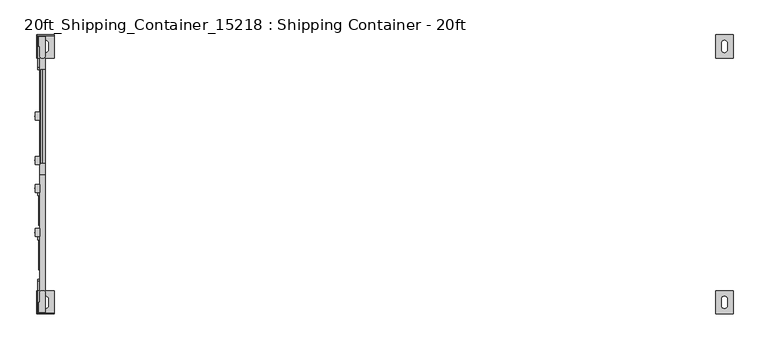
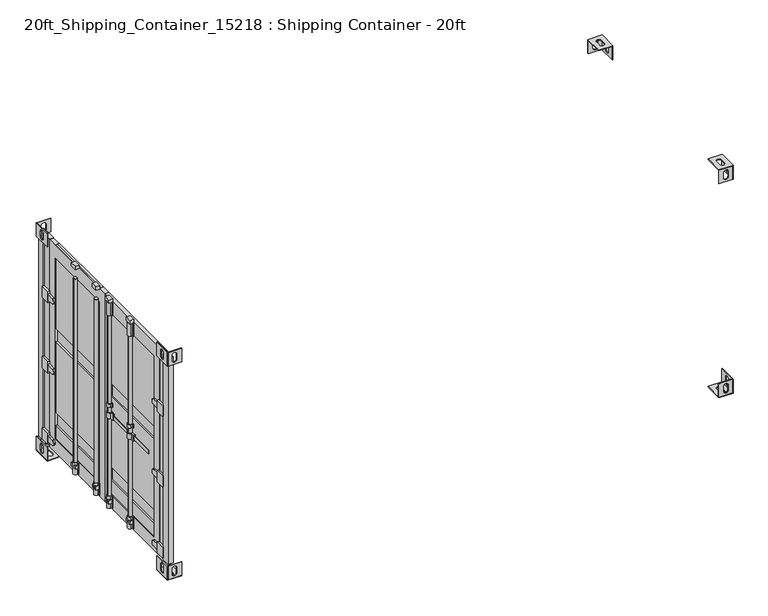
"""IFC4 building model written with IfcOpenShell, lengths in millimetres: proxy geometry, 20ft_Shipping_Container_15218 : Shipping Container - 20ft."""

from ifc_helpers import new_model, si_unit, point, frame, frame_2d, origin, origin_with_axes, place, context, project, spatial, polyline, circle_curve, trimmed, segment, composite_curve, outline, extrude, faceted_brep, source, transform, mapped, element, save


def proxy_20ft_shipping_container_15218_shipping_container_20ft_b15c6e50(model_context):
    return source(origin(), model_context, "Body", "SolidModel", [
        extrude(outline(composite_curve([segment(polyline([(-6089.0024525, 492.5124538), (-6073.775, 492.5124538), (-6073.775, 476.6374538), (-6080.125, 476.6374538), (-6080.125, 486.1624538), (-6088.4054375, 486.1624538)]), True, "CONTINUOUS"), segment(trimmed(circle_curve(frame_2d((-6092.825, 511.175)), 25.4), [point((-6088.4054375, 486.1624538))], [point((-6092.9674273, 536.5746007))], False, "CARTESIAN"), True, "CONTINUOUS"), segment(polyline([(-6092.9674273, 536.5746007), (-6080.125, 536.5746007), (-6080.125, 546.1), (-6073.775, 546.1), (-6073.775, 530.2246007), (-6092.9483455, 530.2246007)]), True, "CONTINUOUS"), segment(trimmed(circle_curve(frame_2d((-6092.825, 511.175)), 19.05), [point((-6092.9483455, 530.2246007))], [point((-6089.0024525, 492.5124538))], True, "CARTESIAN"), True, "CONTINUOUS")], self_intersect=False)), frame((0.0, 0.0, 168.2203507), z_axis=(0.0, 0.0, 1.0), x_axis=(1.0, 0.0, 0.0)), (0.0, 0.0, 1.0), 136.3706163),
        extrude(outline(composite_curve([segment(polyline([(-6089.0024525, 103.9271016), (-6073.775, 103.9271016), (-6073.775, 88.0521016), (-6080.125, 88.0521016), (-6080.125, 97.5771016), (-6088.4054375, 97.5771016)]), True, "CONTINUOUS"), segment(trimmed(circle_curve(frame_2d((-6092.825, 122.5896478)), 25.4), [point((-6088.4054375, 97.5771016))], [point((-6092.9674273, 147.9892485))], False, "CARTESIAN"), True, "CONTINUOUS"), segment(polyline([(-6092.9674273, 147.9892485), (-6080.125, 147.9892485), (-6080.125, 157.5146478), (-6073.775, 157.5146478), (-6073.775, 141.6392485), (-6092.9483455, 141.6392485)]), True, "CONTINUOUS"), segment(trimmed(circle_curve(frame_2d((-6092.825, 122.5896478)), 19.05), [point((-6092.9483455, 141.6392485))], [point((-6089.0024525, 103.9271016))], True, "CARTESIAN"), True, "CONTINUOUS")], self_intersect=False)), frame((0.0, 0.0, 168.2203507), z_axis=(0.0, 0.0, 1.0), x_axis=(1.0, 0.0, 0.0)), (0.0, 0.0, 1.0), 136.3706163),
        extrude(outline(polyline([(-6116.6067069, 546.1), (-6073.775, 546.1), (-6073.775, 476.6374538), (-6116.6067069, 476.6374538), (-6116.6067069, 546.1)])), frame((0.0, 0.0, 240.0937477), z_axis=(0.0, 0.0, 1.0), x_axis=(1.0, 0.0, 0.0)), (0.0, 0.0, 1.0), 38.0453507),
        extrude(outline(polyline([(-6116.6067069, 141.6392485), (-6073.775, 141.6392485), (-6073.775, 88.0521016), (-6116.6067069, 88.0521016), (-6116.6067069, 141.6392485)])), frame((0.0, 0.0, 240.0937477), z_axis=(0.0, 0.0, 1.0), x_axis=(1.0, 0.0, 0.0)), (0.0, 0.0, 1.0), 38.0453507),
        extrude(outline(polyline([(-6116.6067069, 546.1), (-6073.775, 546.1), (-6073.775, 476.6374538), (-6116.6067069, 476.6374538), (-6116.6067069, 546.1)])), frame((0.0, 0.0, 2520.95), z_axis=(0.0, 0.0, 1.0), x_axis=(1.0, 0.0, 0.0)), (0.0, 0.0, 1.0), 38.0453507),
        extrude(outline(polyline([(-6116.6067069, 157.5146478), (-6073.775, 157.5146478), (-6073.775, 88.0521016), (-6116.6067069, 88.0521016), (-6116.6067069, 157.5146478)])), frame((0.0, 0.0, 2520.95), z_axis=(0.0, 0.0, 1.0), x_axis=(1.0, 0.0, 0.0)), (0.0, 0.0, 1.0), 38.0453507),
        extrude(outline(composite_curve([segment(trimmed(circle_curve(frame_2d((-6092.825, 122.5896478)), 19.05), [point((-6111.875, 122.5896478))], [point((-6073.775, 122.5896478))], False, "CARTESIAN"), True, "CONTINUOUS"), segment(trimmed(circle_curve(frame_2d((-6092.825, 122.5896478)), 19.05), [point((-6073.775, 122.5896478))], [point((-6111.875, 122.5896478))], False, "CARTESIAN"), True, "CONTINUOUS")], self_intersect=False)), frame((0.0, 0.0, 168.2203507), z_axis=(0.0, 0.0, 1.0), x_axis=(1.0, 0.0, 0.0)), (0.0, 0.0, 1.0), 2230.0657095),
        extrude(outline(composite_curve([segment(trimmed(circle_curve(frame_2d((-6092.825, 511.175)), 19.05), [point((-6111.875, 511.175))], [point((-6073.775, 511.175))], False, "CARTESIAN"), True, "CONTINUOUS"), segment(trimmed(circle_curve(frame_2d((-6092.825, 511.175)), 19.05), [point((-6073.775, 511.175))], [point((-6111.875, 511.175))], False, "CARTESIAN"), True, "CONTINUOUS")], self_intersect=False)), frame((0.0, 0.0, 168.2203507), z_axis=(0.0, 0.0, 1.0), x_axis=(1.0, 0.0, 0.0)), (0.0, 0.0, 1.0), 2230.0657095),
        extrude(outline(composite_curve([segment(trimmed(circle_curve(frame_2d((946.15, 1873.5677765)), 25.4), [point((920.75, 1873.5677765))], [point((941.7393363, 1898.5818935))], False, "CARTESIAN"), True, "CONTINUOUS"), segment(polyline([(941.7393363, 1898.5818935), (1024.8377677, 1905.8520642), (1024.8377677, 1869.4809072), (1024.8377677, 1833.1097502), (941.7393363, 1840.3799209)]), True, "CONTINUOUS"), segment(trimmed(circle_curve(frame_2d((946.15, 1865.3940378)), 25.4), [point((941.7393363, 1840.3799209))], [point((920.75, 1865.3940378))], False, "CARTESIAN"), True, "CONTINUOUS"), segment(polyline([(920.75, 1865.3940378), (920.75, 1869.4809072), (920.75, 1873.5677765)]), True, "CONTINUOUS")], self_intersect=False)), frame((-6092.825, 0.0, 0.0), z_axis=(1.0, 0.0, 0.0), x_axis=(0.0, 1.0, 0.0)), (0.0, 0.0, 1.0), 19.05),
        extrude(outline(polyline([(-6096.0, 1123.95), (-6073.775, 1123.95), (-6073.775, 1022.35), (-6096.0, 1022.35), (-6096.0, 1123.95)])), frame((0.0, 0.0, 1805.9809072), z_axis=(0.0, 0.0, 1.0), x_axis=(1.0, 0.0, 0.0)), (0.0, 0.0, 1.0), 127.0),
        extrude(outline(composite_curve([segment(trimmed(circle_curve(frame_2d((946.15, 1070.6778363)), 25.4), [point((920.75, 1070.6778363))], [point((941.7393363, 1095.6919533))], False, "CARTESIAN"), True, "CONTINUOUS"), segment(polyline([(941.7393363, 1095.6919533), (1024.8377677, 1102.962124), (1024.8377677, 1066.590967), (1024.8377677, 1030.21981), (941.7393363, 1037.4899807)]), True, "CONTINUOUS"), segment(trimmed(circle_curve(frame_2d((946.15, 1062.5040976)), 25.4), [point((941.7393363, 1037.4899807))], [point((920.75, 1062.5040976))], False, "CARTESIAN"), True, "CONTINUOUS"), segment(polyline([(920.75, 1062.5040976), (920.75, 1066.590967), (920.75, 1070.6778363)]), True, "CONTINUOUS")], self_intersect=False)), frame((-6092.825, 0.0, 0.0), z_axis=(1.0, 0.0, 0.0), x_axis=(0.0, 1.0, 0.0)), (0.0, 0.0, 1.0), 19.05),
        extrude(outline(polyline([(-6096.0, 1123.95), (-6073.775, 1123.95), (-6073.775, 1022.35), (-6096.0, 1022.35), (-6096.0, 1123.95)])), frame((0.0, 0.0, 1003.090967), z_axis=(0.0, 0.0, 1.0), x_axis=(1.0, 0.0, 0.0)), (0.0, 0.0, 1.0), 127.0),
        extrude(outline(composite_curve([segment(trimmed(circle_curve(frame_2d((946.15, 257.8778363)), 25.4), [point((920.75, 257.8778363))], [point((941.7393363, 282.8919533))], False, "CARTESIAN"), True, "CONTINUOUS"), segment(polyline([(941.7393363, 282.8919533), (1024.8377677, 290.162124), (1024.8377677, 253.790967), (1024.8377677, 217.41981), (941.7393363, 224.6899807)]), True, "CONTINUOUS"), segment(trimmed(circle_curve(frame_2d((946.15, 249.7040976)), 25.4), [point((941.7393363, 224.6899807))], [point((920.75, 249.7040976))], False, "CARTESIAN"), True, "CONTINUOUS"), segment(polyline([(920.75, 249.7040976), (920.75, 253.790967), (920.75, 257.8778363)]), True, "CONTINUOUS")], self_intersect=False)), frame((-6092.825, 0.0, 0.0), z_axis=(1.0, 0.0, 0.0), x_axis=(0.0, 1.0, 0.0)), (0.0, 0.0, 1.0), 19.05),
        extrude(outline(polyline([(-6096.0, 1123.95), (-6073.775, 1123.95), (-6073.775, 1022.35), (-6096.0, 1022.35), (-6096.0, 1123.95)])), frame((0.0, 0.0, 190.290967), z_axis=(0.0, 0.0, 1.0), x_axis=(1.0, 0.0, 0.0)), (0.0, 0.0, 1.0), 127.0),
        extrude(outline(composite_curve([segment(trimmed(circle_curve(frame_2d((-6042.025, 1035.05)), 12.7), [point((-6029.325, 1035.05))], [point((-6042.025, 1022.35))], False, "CARTESIAN"), True, "CONTINUOUS"), segment(polyline([(-6042.025, 1022.35), (-6061.075, 1022.35)]), True, "CONTINUOUS"), segment(trimmed(circle_curve(frame_2d((-6061.075, 1035.05)), 12.7), [point((-6061.075, 1022.35))], [point((-6073.775, 1035.05))], False, "CARTESIAN"), True, "CONTINUOUS"), segment(polyline([(-6073.775, 1035.05), (-6073.775, 1123.95), (-6086.475, 1123.95), (-6086.475, 1209.675), (-6029.325, 1209.675), (-6029.325, 1035.05)]), True, "CONTINUOUS")], self_intersect=False)), frame((0.0, 0.0, 168.2203507), z_axis=(0.0, 0.0, 1.0), x_axis=(1.0, 0.0, 0.0)), (0.0, 0.0, 1.0), 2352.7296493),
        extrude(outline(polyline([(-6029.325, 101.6), (-6048.375, 101.6), (-6048.375, 920.75), (-6029.325, 920.75), (-6029.325, 101.6)])), frame((0.0, 0.0, 456.990967), z_axis=(0.0, 0.0, 1.0), x_axis=(1.0, 0.0, 0.0)), (0.0, 0.0, 1.0), 152.4),
        extrude(outline(polyline([(-6029.325, 101.6), (-6048.375, 101.6), (-6048.375, 920.75), (-6029.325, 920.75), (-6029.325, 101.6)])), frame((0.0, 0.0, 2368.55), z_axis=(0.0, 0.0, 1.0), x_axis=(1.0, 0.0, 0.0)), (0.0, 0.0, 1.0), 152.4),
        extrude(outline(polyline([(-6029.325, 101.6), (-6048.375, 101.6), (-6048.375, 920.75), (-6029.325, 920.75), (-6029.325, 101.6)])), frame((0.0, 0.0, 1412.7704835), z_axis=(0.0, 0.0, 1.0), x_axis=(1.0, 0.0, 0.0)), (0.0, 0.0, 1.0), 152.4),
        extrude(outline(polyline([(-6042.025, 101.6), (-6067.425, 101.6), (-6067.425, 920.75), (-6042.025, 920.75), (-6042.025, 101.6)])), frame((0.0, 0.0, 304.590967), z_axis=(0.0, 0.0, 1.0), x_axis=(1.0, 0.0, 0.0)), (0.0, 0.0, 1.0), 152.4),
        extrude(outline(polyline([(-6042.025, 101.6), (-6067.425, 101.6), (-6067.425, 920.75), (-6042.025, 920.75), (-6042.025, 101.6)])), frame((0.0, 0.0, 2486.9305932), z_axis=(0.0, 0.0, 1.0), x_axis=(1.0, 0.0, 0.0)), (0.0, 0.0, 1.0), 34.0194068),
        extrude(outline(polyline([(-6042.025, 101.6), (-6067.425, 101.6), (-6067.425, 920.75), (-6042.025, 920.75), (-6042.025, 101.6)])), frame((0.0, 0.0, 1565.1704835), z_axis=(0.0, 0.0, 1.0), x_axis=(1.0, 0.0, 0.0)), (0.0, 0.0, 1.0), 803.3795165),
        extrude(outline(polyline([(-6042.025, 101.6), (-6067.425, 101.6), (-6067.425, 920.75), (-6042.025, 920.75), (-6042.025, 101.6)])), frame((0.0, 0.0, 609.390967), z_axis=(0.0, 0.0, 1.0), x_axis=(1.0, 0.0, 0.0)), (0.0, 0.0, 1.0), 803.3795165),
        extrude(outline(polyline([(0.0, 2520.95), (1022.35, 2520.95), (1022.35, 152.190967), (0.0, 152.190967), (0.0, 2520.95)]), holes=[polyline([(920.75, 2368.55), (101.6, 2368.55), (101.6, 304.590967), (920.75, 304.590967), (920.75, 2368.55)])]), frame((-6073.775, 0.0, 0.0), z_axis=(1.0, 0.0, 0.0), x_axis=(0.0, 1.0, 0.0)), (0.0, 0.0, 1.0), 44.45),
        extrude(outline(polyline([(-6080.125, -147.9892485), (-6080.125, -449.0870422), (-6086.6174273, -449.0870422), (-6086.6174273, -147.9892485), (-6080.125, -147.9892485)])), frame((0.0, 0.0, 1206.5), z_axis=(0.0, 0.0, 1.0), x_axis=(1.0, 0.0, 0.0)), (0.0, 0.0, 1.0), 38.1),
        extrude(outline(polyline([(-6080.125, -536.5746007), (-6080.125, -837.6723944), (-6086.6174273, -837.6723944), (-6086.6174273, -536.5746007), (-6080.125, -536.5746007)])), frame((0.0, 0.0, 1206.5), z_axis=(0.0, 0.0, 1.0), x_axis=(1.0, 0.0, 0.0)), (0.0, 0.0, 1.0), 38.1),
        extrude(outline(composite_curve([segment(trimmed(circle_curve(frame_2d((-6092.825, -122.5896478)), 19.05), [point((-6089.0024525, -103.9271016))], [point((-6092.9483455, -141.6392485))], True, "CARTESIAN"), True, "CONTINUOUS"), segment(polyline([(-6092.9483455, -141.6392485), (-6073.775, -141.6392485), (-6073.775, -186.0900472), (-6080.125, -186.0900472), (-6080.125, -147.9892485), (-6086.6174273, -147.9892485), (-6086.6174273, -186.0900472), (-6092.9674273, -186.0900472), (-6092.9674273, -147.9892485)]), True, "CONTINUOUS"), segment(trimmed(circle_curve(frame_2d((-6092.825, -122.5896478)), 25.4), [point((-6092.9674273, -147.9892485))], [point((-6088.4054375, -97.5771016))], False, "CARTESIAN"), True, "CONTINUOUS"), segment(polyline([(-6088.4054375, -97.5771016), (-6073.775, -97.5771016), (-6073.775, -103.9271016), (-6089.0024525, -103.9271016)]), True, "CONTINUOUS")], self_intersect=False)), frame((0.0, 0.0, 1193.8), z_axis=(0.0, 0.0, 1.0), x_axis=(1.0, 0.0, 0.0)), (0.0, 0.0, 1.0), 63.5),
        extrude(outline(composite_curve([segment(trimmed(circle_curve(frame_2d((-6092.825, -511.175)), 19.05), [point((-6089.0024525, -492.5124538))], [point((-6092.9483455, -530.2246007))], True, "CARTESIAN"), True, "CONTINUOUS"), segment(polyline([(-6092.9483455, -530.2246007), (-6073.775, -530.2246007), (-6073.775, -574.6753993), (-6080.125, -574.6753993), (-6080.125, -536.5746007), (-6086.6174273, -536.5746007), (-6086.6174273, -574.6753993), (-6092.9674273, -574.6753993), (-6092.9674273, -536.5746007)]), True, "CONTINUOUS"), segment(trimmed(circle_curve(frame_2d((-6092.825, -511.175)), 25.4), [point((-6092.9674273, -536.5746007))], [point((-6088.4054375, -486.1624538))], False, "CARTESIAN"), True, "CONTINUOUS"), segment(polyline([(-6088.4054375, -486.1624538), (-6073.775, -486.1624538), (-6073.775, -492.5124538), (-6089.0024525, -492.5124538)]), True, "CONTINUOUS")], self_intersect=False)), frame((0.0, 0.0, 1193.8), z_axis=(0.0, 0.0, 1.0), x_axis=(1.0, 0.0, 0.0)), (0.0, 0.0, 1.0), 63.5),
        extrude(outline(composite_curve([segment(trimmed(circle_curve(frame_2d((-6092.825, -511.175)), 19.05), [point((-6089.0024525, -492.5124538))], [point((-6092.9483455, -530.2246007))], True, "CARTESIAN"), True, "CONTINUOUS"), segment(polyline([(-6092.9483455, -530.2246007), (-6073.775, -530.2246007), (-6073.775, -546.1), (-6080.125, -546.1), (-6080.125, -536.5746007), (-6092.9674273, -536.5746007)]), True, "CONTINUOUS"), segment(trimmed(circle_curve(frame_2d((-6092.825, -511.175)), 25.4), [point((-6092.9674273, -536.5746007))], [point((-6088.4054375, -486.1624538))], False, "CARTESIAN"), True, "CONTINUOUS"), segment(polyline([(-6088.4054375, -486.1624538), (-6080.125, -486.1624538), (-6080.125, -476.6374538), (-6073.775, -476.6374538), (-6073.775, -492.5124538), (-6089.0024525, -492.5124538)]), True, "CONTINUOUS")], self_intersect=False)), frame((0.0, 0.0, 1320.8), z_axis=(0.0, 0.0, 1.0), x_axis=(1.0, 0.0, 0.0)), (0.0, 0.0, 1.0), 38.1),
        extrude(outline(composite_curve([segment(trimmed(circle_curve(frame_2d((-6092.825, -122.5896478)), 19.05), [point((-6089.0024525, -103.9271016))], [point((-6092.9483455, -141.6392485))], True, "CARTESIAN"), True, "CONTINUOUS"), segment(polyline([(-6092.9483455, -141.6392485), (-6073.775, -141.6392485), (-6073.775, -157.5146478), (-6080.125, -157.5146478), (-6080.125, -147.9892485), (-6092.9674273, -147.9892485)]), True, "CONTINUOUS"), segment(trimmed(circle_curve(frame_2d((-6092.825, -122.5896478)), 25.4), [point((-6092.9674273, -147.9892485))], [point((-6088.4054375, -97.5771016))], False, "CARTESIAN"), True, "CONTINUOUS"), segment(polyline([(-6088.4054375, -97.5771016), (-6080.125, -97.5771016), (-6080.125, -88.0521016), (-6073.775, -88.0521016), (-6073.775, -103.9271016), (-6089.0024525, -103.9271016)]), True, "CONTINUOUS")], self_intersect=False)), frame((0.0, 0.0, 1320.8), z_axis=(0.0, 0.0, 1.0), x_axis=(1.0, 0.0, 0.0)), (0.0, 0.0, 1.0), 38.1),
        extrude(outline(composite_curve([segment(trimmed(circle_curve(frame_2d((-6092.825, -511.175)), 19.05), [point((-6089.0024525, -492.5124538))], [point((-6092.9483455, -530.2246007))], True, "CARTESIAN"), True, "CONTINUOUS"), segment(polyline([(-6092.9483455, -530.2246007), (-6073.775, -530.2246007), (-6073.775, -546.1), (-6080.125, -546.1), (-6080.125, -536.5746007), (-6092.9674273, -536.5746007)]), True, "CONTINUOUS"), segment(trimmed(circle_curve(frame_2d((-6092.825, -511.175)), 25.4), [point((-6092.9674273, -536.5746007))], [point((-6088.4054375, -486.1624538))], False, "CARTESIAN"), True, "CONTINUOUS"), segment(polyline([(-6088.4054375, -486.1624538), (-6080.125, -486.1624538), (-6080.125, -476.6374538), (-6073.775, -476.6374538), (-6073.775, -492.5124538), (-6089.0024525, -492.5124538)]), True, "CONTINUOUS")], self_intersect=False)), frame((0.0, 0.0, 2368.55), z_axis=(0.0, 0.0, 1.0), x_axis=(1.0, 0.0, 0.0)), (0.0, 0.0, 1.0), 152.4),
        extrude(outline(composite_curve([segment(trimmed(circle_curve(frame_2d((-6092.825, -122.5896478)), 19.05), [point((-6089.0024525, -103.9271016))], [point((-6092.9483455, -141.6392485))], True, "CARTESIAN"), True, "CONTINUOUS"), segment(polyline([(-6092.9483455, -141.6392485), (-6073.775, -141.6392485), (-6073.775, -157.5146478), (-6080.125, -157.5146478), (-6080.125, -147.9892485), (-6092.9674273, -147.9892485)]), True, "CONTINUOUS"), segment(trimmed(circle_curve(frame_2d((-6092.825, -122.5896478)), 25.4), [point((-6092.9674273, -147.9892485))], [point((-6088.4054375, -97.5771016))], False, "CARTESIAN"), True, "CONTINUOUS"), segment(polyline([(-6088.4054375, -97.5771016), (-6080.125, -97.5771016), (-6080.125, -88.0521016), (-6073.775, -88.0521016), (-6073.775, -103.9271016), (-6089.0024525, -103.9271016)]), True, "CONTINUOUS")], self_intersect=False)), frame((0.0, 0.0, 2368.55), z_axis=(0.0, 0.0, 1.0), x_axis=(1.0, 0.0, 0.0)), (0.0, 0.0, 1.0), 152.4),
        extrude(outline(composite_curve([segment(trimmed(circle_curve(frame_2d((-6092.825, -511.175)), 19.05), [point((-6089.0024525, -492.5124538))], [point((-6092.9483455, -530.2246007))], True, "CARTESIAN"), True, "CONTINUOUS"), segment(polyline([(-6092.9483455, -530.2246007), (-6073.775, -530.2246007), (-6073.775, -546.1), (-6080.125, -546.1), (-6080.125, -536.5746007), (-6092.9674273, -536.5746007)]), True, "CONTINUOUS"), segment(trimmed(circle_curve(frame_2d((-6092.825, -511.175)), 25.4), [point((-6092.9674273, -536.5746007))], [point((-6088.4054375, -486.1624538))], False, "CARTESIAN"), True, "CONTINUOUS"), segment(polyline([(-6088.4054375, -486.1624538), (-6080.125, -486.1624538), (-6080.125, -476.6374538), (-6073.775, -476.6374538), (-6073.775, -492.5124538), (-6089.0024525, -492.5124538)]), True, "CONTINUOUS")], self_intersect=False)), frame((0.0, 0.0, 168.2203507), z_axis=(0.0, 0.0, 1.0), x_axis=(1.0, 0.0, 0.0)), (0.0, 0.0, 1.0), 136.3706163),
        extrude(outline(composite_curve([segment(trimmed(circle_curve(frame_2d((-6092.825, -122.5896478)), 19.05), [point((-6089.0024525, -103.9271016))], [point((-6092.9483455, -141.6392485))], True, "CARTESIAN"), True, "CONTINUOUS"), segment(polyline([(-6092.9483455, -141.6392485), (-6073.775, -141.6392485), (-6073.775, -157.5146478), (-6080.125, -157.5146478), (-6080.125, -147.9892485), (-6092.9674273, -147.9892485)]), True, "CONTINUOUS"), segment(trimmed(circle_curve(frame_2d((-6092.825, -122.5896478)), 25.4), [point((-6092.9674273, -147.9892485))], [point((-6088.4054375, -97.5771016))], False, "CARTESIAN"), True, "CONTINUOUS"), segment(polyline([(-6088.4054375, -97.5771016), (-6080.125, -97.5771016), (-6080.125, -88.0521016), (-6073.775, -88.0521016), (-6073.775, -103.9271016), (-6089.0024525, -103.9271016)]), True, "CONTINUOUS")], self_intersect=False)), frame((0.0, 0.0, 168.2203507), z_axis=(0.0, 0.0, 1.0), x_axis=(1.0, 0.0, 0.0)), (0.0, 0.0, 1.0), 136.3706163),
        extrude(outline(polyline([(-6116.6067069, -476.6374538), (-6073.775, -476.6374538), (-6073.775, -546.1), (-6116.6067069, -546.1), (-6116.6067069, -476.6374538)])), frame((0.0, 0.0, 230.0480505), z_axis=(0.0, 0.0, 1.0), x_axis=(1.0, 0.0, 0.0)), (0.0, 0.0, 1.0), 38.0453507),
        extrude(outline(polyline([(-6116.6067069, -88.0521016), (-6073.775, -88.0521016), (-6073.775, -157.5146478), (-6116.6067069, -157.5146478), (-6116.6067069, -88.0521016)])), frame((0.0, 0.0, 230.0480505), z_axis=(0.0, 0.0, 1.0), x_axis=(1.0, 0.0, 0.0)), (0.0, 0.0, 1.0), 38.0453507),
        extrude(outline(polyline([(-6116.6067069, -476.6374538), (-6073.775, -476.6374538), (-6073.775, -546.1), (-6116.6067069, -546.1), (-6116.6067069, -476.6374538)])), frame((0.0, 0.0, 2520.95), z_axis=(0.0, 0.0, 1.0), x_axis=(1.0, 0.0, 0.0)), (0.0, 0.0, 1.0), 38.0453507),
        extrude(outline(polyline([(-6116.6067069, -88.0521016), (-6073.775, -88.0521016), (-6073.775, -157.5146478), (-6116.6067069, -157.5146478), (-6116.6067069, -88.0521016)])), frame((0.0, 0.0, 2520.95), z_axis=(0.0, 0.0, 1.0), x_axis=(1.0, 0.0, 0.0)), (0.0, 0.0, 1.0), 38.0453507),
        extrude(outline(composite_curve([segment(trimmed(circle_curve(frame_2d((-6092.825, -122.5896478)), 19.05), [point((-6111.875, -122.5896478))], [point((-6073.775, -122.5896478))], False, "CARTESIAN"), True, "CONTINUOUS"), segment(trimmed(circle_curve(frame_2d((-6092.825, -122.5896478)), 19.05), [point((-6073.775, -122.5896478))], [point((-6111.875, -122.5896478))], False, "CARTESIAN"), True, "CONTINUOUS")], self_intersect=False)), frame((0.0, 0.0, 168.2203507), z_axis=(0.0, 0.0, 1.0), x_axis=(1.0, 0.0, 0.0)), (0.0, 0.0, 1.0), 2297.300925),
        extrude(outline(composite_curve([segment(trimmed(circle_curve(frame_2d((-6092.825, -511.175)), 19.05), [point((-6111.875, -511.175))], [point((-6073.775, -511.175))], False, "CARTESIAN"), True, "CONTINUOUS"), segment(trimmed(circle_curve(frame_2d((-6092.825, -511.175)), 19.05), [point((-6073.775, -511.175))], [point((-6111.875, -511.175))], False, "CARTESIAN"), True, "CONTINUOUS")], self_intersect=False)), frame((0.0, 0.0, 168.2203507), z_axis=(0.0, 0.0, 1.0), x_axis=(1.0, 0.0, 0.0)), (0.0, 0.0, 1.0), 2297.300925),
        extrude(outline(composite_curve([segment(polyline([(-920.75, 1873.5677765), (-920.75, 1869.4809072), (-920.75, 1865.3940378)]), True, "CONTINUOUS"), segment(trimmed(circle_curve(frame_2d((-946.15, 1865.3940378)), 25.4), [point((-920.75, 1865.3940378))], [point((-941.7393363, 1840.3799209))], False, "CARTESIAN"), True, "CONTINUOUS"), segment(polyline([(-941.7393363, 1840.3799209), (-1024.8377677, 1833.1097502), (-1024.8377677, 1869.4809072), (-1024.8377677, 1905.8520642), (-941.7393363, 1898.5818935)]), True, "CONTINUOUS"), segment(trimmed(circle_curve(frame_2d((-946.15, 1873.5677765)), 25.4), [point((-941.7393363, 1898.5818935))], [point((-920.75, 1873.5677765))], False, "CARTESIAN"), True, "CONTINUOUS")], self_intersect=False)), frame((-6092.825, 0.0, 0.0), z_axis=(1.0, 0.0, 0.0), x_axis=(0.0, 1.0, 0.0)), (0.0, 0.0, 1.0), 19.05),
        extrude(outline(polyline([(-6096.0, -1123.95), (-6096.0, -1022.35), (-6073.775, -1022.35), (-6073.775, -1123.95), (-6096.0, -1123.95)])), frame((0.0, 0.0, 1805.9809072), z_axis=(0.0, 0.0, 1.0), x_axis=(1.0, 0.0, 0.0)), (0.0, 0.0, 1.0), 127.0),
        extrude(outline(composite_curve([segment(polyline([(-920.75, 1070.6778363), (-920.75, 1066.590967), (-920.75, 1062.5040976)]), True, "CONTINUOUS"), segment(trimmed(circle_curve(frame_2d((-946.15, 1062.5040976)), 25.4), [point((-920.75, 1062.5040976))], [point((-941.7393363, 1037.4899807))], False, "CARTESIAN"), True, "CONTINUOUS"), segment(polyline([(-941.7393363, 1037.4899807), (-1024.8377677, 1030.21981), (-1024.8377677, 1066.590967), (-1024.8377677, 1102.962124), (-941.7393363, 1095.6919533)]), True, "CONTINUOUS"), segment(trimmed(circle_curve(frame_2d((-946.15, 1070.6778363)), 25.4), [point((-941.7393363, 1095.6919533))], [point((-920.75, 1070.6778363))], False, "CARTESIAN"), True, "CONTINUOUS")], self_intersect=False)), frame((-6092.825, 0.0, 0.0), z_axis=(1.0, 0.0, 0.0), x_axis=(0.0, 1.0, 0.0)), (0.0, 0.0, 1.0), 19.05),
        extrude(outline(polyline([(-6096.0, -1123.95), (-6096.0, -1022.35), (-6073.775, -1022.35), (-6073.775, -1123.95), (-6096.0, -1123.95)])), frame((0.0, 0.0, 1003.090967), z_axis=(0.0, 0.0, 1.0), x_axis=(1.0, 0.0, 0.0)), (0.0, 0.0, 1.0), 127.0),
        extrude(outline(composite_curve([segment(polyline([(-920.75, 257.8778363), (-920.75, 253.790967), (-920.75, 249.7040976)]), True, "CONTINUOUS"), segment(trimmed(circle_curve(frame_2d((-946.15, 249.7040976)), 25.4), [point((-920.75, 249.7040976))], [point((-941.7393363, 224.6899807))], False, "CARTESIAN"), True, "CONTINUOUS"), segment(polyline([(-941.7393363, 224.6899807), (-1024.8377677, 217.41981), (-1024.8377677, 253.790967), (-1024.8377677, 290.162124), (-941.7393363, 282.8919533)]), True, "CONTINUOUS"), segment(trimmed(circle_curve(frame_2d((-946.15, 257.8778363)), 25.4), [point((-941.7393363, 282.8919533))], [point((-920.75, 257.8778363))], False, "CARTESIAN"), True, "CONTINUOUS")], self_intersect=False)), frame((-6092.825, 0.0, 0.0), z_axis=(1.0, 0.0, 0.0), x_axis=(0.0, 1.0, 0.0)), (0.0, 0.0, 1.0), 19.05),
        extrude(outline(polyline([(-6096.0, -1123.95), (-6096.0, -1022.35), (-6073.775, -1022.35), (-6073.775, -1123.95), (-6096.0, -1123.95)])), frame((0.0, 0.0, 190.290967), z_axis=(0.0, 0.0, 1.0), x_axis=(1.0, 0.0, 0.0)), (0.0, 0.0, 1.0), 127.0),
        extrude(outline(composite_curve([segment(polyline([(-6029.325, -1035.05), (-6029.325, -1209.675), (-6086.475, -1209.675), (-6086.475, -1123.95), (-6073.775, -1123.95), (-6073.775, -1035.05)]), True, "CONTINUOUS"), segment(trimmed(circle_curve(frame_2d((-6061.075, -1035.05)), 12.7), [point((-6073.775, -1035.05))], [point((-6061.075, -1022.35))], False, "CARTESIAN"), True, "CONTINUOUS"), segment(polyline([(-6061.075, -1022.35), (-6042.025, -1022.35)]), True, "CONTINUOUS"), segment(trimmed(circle_curve(frame_2d((-6042.025, -1035.05)), 12.7), [point((-6042.025, -1022.35))], [point((-6029.325, -1035.05))], False, "CARTESIAN"), True, "CONTINUOUS")], self_intersect=False)), frame((0.0, 0.0, 168.2203507), z_axis=(0.0, 0.0, 1.0), x_axis=(1.0, 0.0, 0.0)), (0.0, 0.0, 1.0), 2352.7296493),
        faceted_brep([(-6029.325, 0.0, 2520.95), (-6029.325, -1022.35, 2520.95), (-6029.325, -1022.35, 152.190967), (-6029.325, 0.0, 152.190967), (-6029.325, -101.6, 1412.7704835), (-6029.325, -101.6, 609.390967), (-6029.325, -920.75, 609.390967), (-6029.325, -920.75, 1412.7704835), (-6029.325, -101.6, 456.990967), (-6029.325, -101.6, 304.590967), (-6029.325, -920.75, 304.590967), (-6029.325, -920.75, 456.990967), (-6029.325, -920.75, 1565.1704835), (-6029.325, -920.75, 2368.55), (-6029.325, -101.6, 2368.55), (-6029.325, -101.6, 1565.1704835), (-6048.375, -920.75, 456.990967), (-6048.375, -920.75, 609.390967), (-6048.375, -101.6, 609.390967), (-6048.375, -101.6, 456.990967), (-6048.375, -101.6, 1565.1704835), (-6048.375, -101.6, 1412.7704835), (-6048.375, -920.75, 1412.7704835), (-6048.375, -920.75, 1565.1704835), (-6042.025, -920.75, 456.990967), (-6042.025, -101.6, 456.990967), (-6073.775, 0.0, 2520.95), (-6073.775, -1022.35, 2520.95), (-6042.025, -101.6, 1565.1704835), (-6042.025, -920.75, 1565.1704835), (-6042.025, -920.75, 2368.55), (-6042.025, -101.6, 2368.55), (-6042.025, -920.75, 1412.7704835), (-6042.025, -101.6, 1412.7704835), (-6042.025, -101.6, 609.390967), (-6042.025, -920.75, 609.390967), (-6042.025, -920.75, 304.590967), (-6042.025, -101.6, 304.590967), (-6067.425, -920.75, 1565.1704835), (-6067.425, -920.75, 2368.55), (-6067.425, -101.6, 2368.55), (-6067.425, -101.6, 1565.1704835), (-6067.425, -101.6, 456.990967), (-6067.425, -101.6, 304.590967), (-6067.425, -920.75, 304.590967), (-6067.425, -920.75, 456.990967), (-6067.425, -920.75, 609.390967), (-6067.425, -920.75, 1412.7704835), (-6067.425, -101.6, 1412.7704835), (-6067.425, -101.6, 609.390967), (-6073.775, 0.0, 152.190967), (-6073.775, -1022.35, 152.190967), (-6073.775, -920.75, 2368.55), (-6073.775, -920.75, 304.590967), (-6073.775, -101.6, 304.590967), (-6073.775, -101.6, 2368.55)], [[[0, 1, 2, 3], [4, 5, 6, 7], [8, 9, 10, 11], [12, 13, 14, 15]], [[16, 17, 18, 19]], [[20, 21, 22, 23]], [[11, 24, 25, 8]], [[0, 26, 27, 1]], [[15, 28, 29, 12]], [[13, 30, 31, 14]], [[7, 32, 33, 4]], [[5, 34, 35, 6]], [[24, 36, 37, 25]], [[32, 35, 34, 33]], [[28, 31, 30, 29]], [[38, 39, 40, 41]], [[42, 43, 44, 45]], [[46, 47, 48, 49]], [[45, 16, 19, 42]], [[41, 20, 23, 38]], [[47, 22, 21, 48]], [[49, 18, 17, 46]], [[26, 50, 51, 27], [52, 53, 54, 55]], [[3, 50, 26, 0]], [[2, 51, 50, 3]], [[1, 27, 51, 2]], [[12, 29, 30, 13]], [[6, 35, 32, 7]], [[52, 39, 38, 23, 22, 47, 46, 17, 16, 45, 44, 53]], [[10, 36, 24, 11]], [[53, 44, 43, 54]], [[9, 37, 36, 10]], [[8, 25, 37, 9]], [[14, 31, 28, 15]], [[4, 33, 34, 5]], [[54, 43, 42, 19, 18, 49, 48, 21, 20, 41, 40, 55]], [[55, 40, 39, 52]]]),
        extrude(outline(polyline([(6.35, -146.05), (6.35, 0.0), (158.75, 0.0), (158.75, -146.05), (6.35, -146.05)]), holes=[composite_curve([segment(trimmed(circle_curve(frame_2d((110.063327, -69.85)), 25.4), [point((110.063327, -95.25))], [point((110.063327, -44.45))], True, "CARTESIAN"), True, "CONTINUOUS"), segment(polyline([(110.063327, -44.45), (55.036673, -44.45)]), True, "CONTINUOUS"), segment(trimmed(circle_curve(frame_2d((55.036673, -69.85)), 25.4), [point((55.036673, -44.45))], [point((55.036673, -95.25))], True, "CARTESIAN"), True, "CONTINUOUS"), segment(polyline([(55.036673, -95.25), (110.063327, -95.25)]), True, "CONTINUOUS")], self_intersect=False)]), frame((0.0, -1225.55, 0.0), z_axis=(0.0, 1.0, 0.0), x_axis=(0.0, 0.0, 1.0)), (0.0, 0.0, 1.0), 6.35),
        extrude(outline(polyline([(-1225.55, 6.35), (-1225.55, 158.75), (-1022.35, 158.75), (-1022.35, 6.35), (-1225.55, 6.35)]), holes=[composite_curve([segment(polyline([(-1149.35, 110.063327), (-1149.35, 55.036673)]), True, "CONTINUOUS"), segment(trimmed(circle_curve(frame_2d((-1123.95, 55.036673)), 25.4), [point((-1149.35, 55.036673))], [point((-1098.55, 55.036673))], True, "CARTESIAN"), True, "CONTINUOUS"), segment(polyline([(-1098.55, 55.036673), (-1098.55, 110.063327)]), True, "CONTINUOUS"), segment(trimmed(circle_curve(frame_2d((-1123.95, 110.063327)), 25.4), [point((-1098.55, 110.063327))], [point((-1149.35, 110.063327))], True, "CARTESIAN"), True, "CONTINUOUS")], self_intersect=False)]), frame((0.0, 0.0, 0.0), z_axis=(1.0, 0.0, 0.0), x_axis=(0.0, 1.0, 0.0)), (0.0, 0.0, 1.0), 6.35),
        extrude(outline(polyline([(6.35, -1225.55), (-146.05, -1225.55), (-146.05, -1022.35), (6.35, -1022.35), (6.35, -1225.55)]), holes=[composite_curve([segment(polyline([(-44.45, -1151.463327), (-44.45, -1096.436673)]), True, "CONTINUOUS"), segment(trimmed(circle_curve(frame_2d((-69.85, -1096.436673)), 25.4), [point((-44.45, -1096.436673))], [point((-95.25, -1096.436673))], True, "CARTESIAN"), True, "CONTINUOUS"), segment(polyline([(-95.25, -1096.436673), (-95.25, -1151.463327)]), True, "CONTINUOUS"), segment(trimmed(circle_curve(frame_2d((-69.85, -1151.463327)), 25.4), [point((-95.25, -1151.463327))], [point((-44.45, -1151.463327))], True, "CARTESIAN"), True, "CONTINUOUS")], self_intersect=False)]), origin_with_axes(), (0.0, 0.0, 1.0), 6.35),
        extrude(outline(polyline([(6.35, -5949.95), (158.75, -5949.95), (158.75, -6096.0), (6.35, -6096.0), (6.35, -5949.95)]), holes=[composite_curve([segment(polyline([(110.063327, -6000.75), (55.036673, -6000.75)]), True, "CONTINUOUS"), segment(trimmed(circle_curve(frame_2d((55.036673, -6026.15)), 25.4), [point((55.036673, -6000.75))], [point((55.036673, -6051.55))], True, "CARTESIAN"), True, "CONTINUOUS"), segment(polyline([(55.036673, -6051.55), (110.063327, -6051.55)]), True, "CONTINUOUS"), segment(trimmed(circle_curve(frame_2d((110.063327, -6026.15)), 25.4), [point((110.063327, -6051.55))], [point((110.063327, -6000.75))], True, "CARTESIAN"), True, "CONTINUOUS")], self_intersect=False)]), frame((0.0, -1225.55, 0.0), z_axis=(0.0, 1.0, 0.0), x_axis=(0.0, 0.0, 1.0)), (0.0, 0.0, 1.0), 6.35),
        extrude(outline(polyline([(-1225.55, 6.35), (-1225.55, 158.75), (-1022.35, 158.75), (-1022.35, 6.35), (-1225.55, 6.35)]), holes=[composite_curve([segment(polyline([(-1149.35, 110.063327), (-1149.35, 55.036673)]), True, "CONTINUOUS"), segment(trimmed(circle_curve(frame_2d((-1123.95, 55.036673)), 25.4), [point((-1149.35, 55.036673))], [point((-1098.55, 55.036673))], True, "CARTESIAN"), True, "CONTINUOUS"), segment(polyline([(-1098.55, 55.036673), (-1098.55, 110.063327)]), True, "CONTINUOUS"), segment(trimmed(circle_curve(frame_2d((-1123.95, 110.063327)), 25.4), [point((-1098.55, 110.063327))], [point((-1149.35, 110.063327))], True, "CARTESIAN"), True, "CONTINUOUS")], self_intersect=False)]), frame((-6102.35, 0.0, 0.0), z_axis=(1.0, 0.0, 0.0), x_axis=(0.0, 1.0, 0.0)), (0.0, 0.0, 1.0), 6.35),
        extrude(outline(polyline([(-6102.35, -1225.55), (-6102.35, -1022.35), (-5949.95, -1022.35), (-5949.95, -1225.55), (-6102.35, -1225.55)]), holes=[composite_curve([segment(trimmed(circle_curve(frame_2d((-6026.15, -1151.463327)), 25.4), [point((-6051.55, -1151.463327))], [point((-6000.75, -1151.463327))], True, "CARTESIAN"), True, "CONTINUOUS"), segment(polyline([(-6000.75, -1151.463327), (-6000.75, -1096.436673)]), True, "CONTINUOUS"), segment(trimmed(circle_curve(frame_2d((-6026.15, -1096.436673)), 25.4), [point((-6000.75, -1096.436673))], [point((-6051.55, -1096.436673))], True, "CARTESIAN"), True, "CONTINUOUS"), segment(polyline([(-6051.55, -1096.436673), (-6051.55, -1151.463327)]), True, "CONTINUOUS")], self_intersect=False)]), origin_with_axes(), (0.0, 0.0, 1.0), 6.35),
        extrude(outline(polyline([(6.35, -146.05), (6.35, 0.0), (158.75, 0.0), (158.75, -146.05), (6.35, -146.05)]), holes=[composite_curve([segment(trimmed(circle_curve(frame_2d((110.063327, -69.85)), 25.4), [point((110.063327, -95.25))], [point((110.063327, -44.45))], True, "CARTESIAN"), True, "CONTINUOUS"), segment(polyline([(110.063327, -44.45), (55.036673, -44.45)]), True, "CONTINUOUS"), segment(trimmed(circle_curve(frame_2d((55.036673, -69.85)), 25.4), [point((55.036673, -44.45))], [point((55.036673, -95.25))], True, "CARTESIAN"), True, "CONTINUOUS"), segment(polyline([(55.036673, -95.25), (110.063327, -95.25)]), True, "CONTINUOUS")], self_intersect=False)]), frame((0.0, -1219.2, 0.0), z_axis=(0.0, 1.0, 0.0), x_axis=(0.0, 0.0, 1.0)), (0.0, 0.0, 1.0), 6.35),
        extrude(outline(polyline([(6.35, -5949.95), (158.75, -5949.95), (158.75, -6096.0), (6.35, -6096.0), (6.35, -5949.95)]), holes=[composite_curve([segment(polyline([(110.063327, -6000.75), (55.036673, -6000.75)]), True, "CONTINUOUS"), segment(trimmed(circle_curve(frame_2d((55.036673, -6026.15)), 25.4), [point((55.036673, -6000.75))], [point((55.036673, -6051.55))], True, "CARTESIAN"), True, "CONTINUOUS"), segment(polyline([(55.036673, -6051.55), (110.063327, -6051.55)]), True, "CONTINUOUS"), segment(trimmed(circle_curve(frame_2d((110.063327, -6026.15)), 25.4), [point((110.063327, -6051.55))], [point((110.063327, -6000.75))], True, "CARTESIAN"), True, "CONTINUOUS")], self_intersect=False)]), frame((0.0, 1219.2, 0.0), z_axis=(0.0, 1.0, 0.0), x_axis=(0.0, 0.0, 1.0)), (0.0, 0.0, 1.0), 6.35),
        extrude(outline(polyline([(1225.55, 6.35), (1022.35, 6.35), (1022.35, 158.75), (1225.55, 158.75), (1225.55, 6.35)]), holes=[composite_curve([segment(trimmed(circle_curve(frame_2d((1123.95, 110.063327)), 25.4), [point((1149.35, 110.063327))], [point((1098.55, 110.063327))], True, "CARTESIAN"), True, "CONTINUOUS"), segment(polyline([(1098.55, 110.063327), (1098.55, 55.036673)]), True, "CONTINUOUS"), segment(trimmed(circle_curve(frame_2d((1123.95, 55.036673)), 25.4), [point((1098.55, 55.036673))], [point((1149.35, 55.036673))], True, "CARTESIAN"), True, "CONTINUOUS"), segment(polyline([(1149.35, 55.036673), (1149.35, 110.063327)]), True, "CONTINUOUS")], self_intersect=False)]), frame((-6102.35, 0.0, 0.0), z_axis=(1.0, 0.0, 0.0), x_axis=(0.0, 1.0, 0.0)), (0.0, 0.0, 1.0), 6.35),
        extrude(outline(polyline([(-6102.35, 1225.55), (-5949.95, 1225.55), (-5949.95, 1022.35), (-6102.35, 1022.35), (-6102.35, 1225.55)]), holes=[composite_curve([segment(polyline([(-6051.55, 1151.463327), (-6051.55, 1096.436673)]), True, "CONTINUOUS"), segment(trimmed(circle_curve(frame_2d((-6026.15, 1096.436673)), 25.4), [point((-6051.55, 1096.436673))], [point((-6000.75, 1096.436673))], True, "CARTESIAN"), True, "CONTINUOUS"), segment(polyline([(-6000.75, 1096.436673), (-6000.75, 1151.463327)]), True, "CONTINUOUS"), segment(trimmed(circle_curve(frame_2d((-6026.15, 1151.463327)), 25.4), [point((-6000.75, 1151.463327))], [point((-6051.55, 1151.463327))], True, "CARTESIAN"), True, "CONTINUOUS")], self_intersect=False)]), origin_with_axes(), (0.0, 0.0, 1.0), 6.35),
        extrude(outline(polyline([(2597.15, -146.05), (2444.75, -146.05), (2444.75, 0.0), (2597.15, 0.0), (2597.15, -146.05)]), holes=[composite_curve([segment(polyline([(2493.436673, -95.25), (2548.463327, -95.25)]), True, "CONTINUOUS"), segment(trimmed(circle_curve(frame_2d((2548.463327, -69.85)), 25.4), [point((2548.463327, -95.25))], [point((2548.463327, -44.45))], True, "CARTESIAN"), True, "CONTINUOUS"), segment(polyline([(2548.463327, -44.45), (2493.436673, -44.45)]), True, "CONTINUOUS"), segment(trimmed(circle_curve(frame_2d((2493.436673, -69.85)), 25.4), [point((2493.436673, -44.45))], [point((2493.436673, -95.25))], True, "CARTESIAN"), True, "CONTINUOUS")], self_intersect=False)]), frame((0.0, 1219.2, 0.0), z_axis=(0.0, 1.0, 0.0), x_axis=(0.0, 0.0, 1.0)), (0.0, 0.0, 1.0), 6.35),
        extrude(outline(polyline([(-1225.55, 2597.15), (-1022.35, 2597.15), (-1022.35, 2444.75), (-1225.55, 2444.75), (-1225.55, 2597.15)]), holes=[composite_curve([segment(trimmed(circle_curve(frame_2d((-1123.95, 2493.436673)), 25.4), [point((-1149.35, 2493.436673))], [point((-1098.55, 2493.436673))], True, "CARTESIAN"), True, "CONTINUOUS"), segment(polyline([(-1098.55, 2493.436673), (-1098.55, 2548.463327)]), True, "CONTINUOUS"), segment(trimmed(circle_curve(frame_2d((-1123.95, 2548.463327)), 25.4), [point((-1098.55, 2548.463327))], [point((-1149.35, 2548.463327))], True, "CARTESIAN"), True, "CONTINUOUS"), segment(polyline([(-1149.35, 2548.463327), (-1149.35, 2493.436673)]), True, "CONTINUOUS")], self_intersect=False)]), frame((0.0, 0.0, 0.0), z_axis=(1.0, 0.0, 0.0), x_axis=(0.0, 1.0, 0.0)), (0.0, 0.0, 1.0), 6.35),
        extrude(outline(polyline([(6.35, -1225.55), (-146.05, -1225.55), (-146.05, -1022.35), (6.35, -1022.35), (6.35, -1225.55)]), holes=[composite_curve([segment(polyline([(-44.45, -1151.463327), (-44.45, -1096.436673)]), True, "CONTINUOUS"), segment(trimmed(circle_curve(frame_2d((-69.85, -1096.436673)), 25.4), [point((-44.45, -1096.436673))], [point((-95.25, -1096.436673))], True, "CARTESIAN"), True, "CONTINUOUS"), segment(polyline([(-95.25, -1096.436673), (-95.25, -1151.463327)]), True, "CONTINUOUS"), segment(trimmed(circle_curve(frame_2d((-69.85, -1151.463327)), 25.4), [point((-95.25, -1151.463327))], [point((-44.45, -1151.463327))], True, "CARTESIAN"), True, "CONTINUOUS")], self_intersect=False)]), frame((0.0, 0.0, 2597.15), z_axis=(0.0, 0.0, 1.0), x_axis=(1.0, 0.0, 0.0)), (0.0, 0.0, 1.0), 6.35),
        extrude(outline(polyline([(2597.15, -146.05), (2444.75, -146.05), (2444.75, 0.0), (2597.15, 0.0), (2597.15, -146.05)]), holes=[composite_curve([segment(polyline([(2493.436673, -95.25), (2548.463327, -95.25)]), True, "CONTINUOUS"), segment(trimmed(circle_curve(frame_2d((2548.463327, -69.85)), 25.4), [point((2548.463327, -95.25))], [point((2548.463327, -44.45))], True, "CARTESIAN"), True, "CONTINUOUS"), segment(polyline([(2548.463327, -44.45), (2493.436673, -44.45)]), True, "CONTINUOUS"), segment(trimmed(circle_curve(frame_2d((2493.436673, -69.85)), 25.4), [point((2493.436673, -44.45))], [point((2493.436673, -95.25))], True, "CARTESIAN"), True, "CONTINUOUS")], self_intersect=False)]), frame((0.0, -1225.55, 0.0), z_axis=(0.0, 1.0, 0.0), x_axis=(0.0, 0.0, 1.0)), (0.0, 0.0, 1.0), 6.35),
        extrude(outline(polyline([(1225.55, 2597.15), (1225.55, 2444.75), (1022.35, 2444.75), (1022.35, 2597.15), (1225.55, 2597.15)]), holes=[composite_curve([segment(polyline([(1149.35, 2493.436673), (1149.35, 2548.463327)]), True, "CONTINUOUS"), segment(trimmed(circle_curve(frame_2d((1123.95, 2548.463327)), 25.4), [point((1149.35, 2548.463327))], [point((1098.55, 2548.463327))], True, "CARTESIAN"), True, "CONTINUOUS"), segment(polyline([(1098.55, 2548.463327), (1098.55, 2493.436673)]), True, "CONTINUOUS"), segment(trimmed(circle_curve(frame_2d((1123.95, 2493.436673)), 25.4), [point((1098.55, 2493.436673))], [point((1149.35, 2493.436673))], True, "CARTESIAN"), True, "CONTINUOUS")], self_intersect=False)]), frame((0.0, 0.0, 0.0), z_axis=(1.0, 0.0, 0.0), x_axis=(0.0, 1.0, 0.0)), (0.0, 0.0, 1.0), 6.35),
        extrude(outline(polyline([(6.35, 1225.55), (6.35, 1022.35), (-146.05, 1022.35), (-146.05, 1225.55), (6.35, 1225.55)]), holes=[composite_curve([segment(trimmed(circle_curve(frame_2d((-69.85, 1151.463327)), 25.4), [point((-44.45, 1151.463327))], [point((-95.25, 1151.463327))], True, "CARTESIAN"), True, "CONTINUOUS"), segment(polyline([(-95.25, 1151.463327), (-95.25, 1096.436673)]), True, "CONTINUOUS"), segment(trimmed(circle_curve(frame_2d((-69.85, 1096.436673)), 25.4), [point((-95.25, 1096.436673))], [point((-44.45, 1096.436673))], True, "CARTESIAN"), True, "CONTINUOUS"), segment(polyline([(-44.45, 1096.436673), (-44.45, 1151.463327)]), True, "CONTINUOUS")], self_intersect=False)]), frame((0.0, 0.0, 2597.15), z_axis=(0.0, 0.0, 1.0), x_axis=(1.0, 0.0, 0.0)), (0.0, 0.0, 1.0), 6.35),
        extrude(outline(polyline([(2597.15, -5949.95), (2597.15, -6096.0), (2444.75, -6096.0), (2444.75, -5949.95), (2597.15, -5949.95)]), holes=[composite_curve([segment(trimmed(circle_curve(frame_2d((2493.436673, -6026.15)), 25.4), [point((2493.436673, -6000.75))], [point((2493.436673, -6051.55))], True, "CARTESIAN"), True, "CONTINUOUS"), segment(polyline([(2493.436673, -6051.55), (2548.463327, -6051.55)]), True, "CONTINUOUS"), segment(trimmed(circle_curve(frame_2d((2548.463327, -6026.15)), 25.4), [point((2548.463327, -6051.55))], [point((2548.463327, -6000.75))], True, "CARTESIAN"), True, "CONTINUOUS"), segment(polyline([(2548.463327, -6000.75), (2493.436673, -6000.75)]), True, "CONTINUOUS")], self_intersect=False)]), frame((0.0, -1225.55, 0.0), z_axis=(0.0, 1.0, 0.0), x_axis=(0.0, 0.0, 1.0)), (0.0, 0.0, 1.0), 6.35),
        extrude(outline(polyline([(-1225.55, 2597.15), (-1022.35, 2597.15), (-1022.35, 2444.75), (-1225.55, 2444.75), (-1225.55, 2597.15)]), holes=[composite_curve([segment(trimmed(circle_curve(frame_2d((-1123.95, 2493.436673)), 25.4), [point((-1149.35, 2493.436673))], [point((-1098.55, 2493.436673))], True, "CARTESIAN"), True, "CONTINUOUS"), segment(polyline([(-1098.55, 2493.436673), (-1098.55, 2548.463327)]), True, "CONTINUOUS"), segment(trimmed(circle_curve(frame_2d((-1123.95, 2548.463327)), 25.4), [point((-1098.55, 2548.463327))], [point((-1149.35, 2548.463327))], True, "CARTESIAN"), True, "CONTINUOUS"), segment(polyline([(-1149.35, 2548.463327), (-1149.35, 2493.436673)]), True, "CONTINUOUS")], self_intersect=False)]), frame((-6102.35, 0.0, 0.0), z_axis=(1.0, 0.0, 0.0), x_axis=(0.0, 1.0, 0.0)), (0.0, 0.0, 1.0), 6.35),
        extrude(outline(polyline([(2597.15, -5949.95), (2597.15, -6096.0), (2444.75, -6096.0), (2444.75, -5949.95), (2597.15, -5949.95)]), holes=[composite_curve([segment(trimmed(circle_curve(frame_2d((2493.436673, -6026.15)), 25.4), [point((2493.436673, -6000.75))], [point((2493.436673, -6051.55))], True, "CARTESIAN"), True, "CONTINUOUS"), segment(polyline([(2493.436673, -6051.55), (2548.463327, -6051.55)]), True, "CONTINUOUS"), segment(trimmed(circle_curve(frame_2d((2548.463327, -6026.15)), 25.4), [point((2548.463327, -6051.55))], [point((2548.463327, -6000.75))], True, "CARTESIAN"), True, "CONTINUOUS"), segment(polyline([(2548.463327, -6000.75), (2493.436673, -6000.75)]), True, "CONTINUOUS")], self_intersect=False)]), frame((0.0, 1219.2, 0.0), z_axis=(0.0, 1.0, 0.0), x_axis=(0.0, 0.0, 1.0)), (0.0, 0.0, 1.0), 6.35),
        extrude(outline(polyline([(1225.55, 2597.15), (1225.55, 2444.75), (1022.35, 2444.75), (1022.35, 2597.15), (1225.55, 2597.15)]), holes=[composite_curve([segment(polyline([(1149.35, 2493.436673), (1149.35, 2548.463327)]), True, "CONTINUOUS"), segment(trimmed(circle_curve(frame_2d((1123.95, 2548.463327)), 25.4), [point((1149.35, 2548.463327))], [point((1098.55, 2548.463327))], True, "CARTESIAN"), True, "CONTINUOUS"), segment(polyline([(1098.55, 2548.463327), (1098.55, 2493.436673)]), True, "CONTINUOUS"), segment(trimmed(circle_curve(frame_2d((1123.95, 2493.436673)), 25.4), [point((1098.55, 2493.436673))], [point((1149.35, 2493.436673))], True, "CARTESIAN"), True, "CONTINUOUS")], self_intersect=False)]), frame((-6102.35, 0.0, 0.0), z_axis=(1.0, 0.0, 0.0), x_axis=(0.0, 1.0, 0.0)), (0.0, 0.0, 1.0), 6.35),
    ])


if __name__ == "__main__":
    model = new_model("IFC4")
    model_context = context("Model", 3, world=origin())
    ifc_project = project(units=[si_unit("LENGTHUNIT", "METRE", prefix="MILLI")], contexts=[model_context])
    site = spatial("IfcSite", under=ifc_project)
    building = spatial("IfcBuilding", under=site)
    placement = place(None, origin())
    proxy_20ft_shipping_container_15218_shipping_container_20ft_shape = proxy_20ft_shipping_container_15218_shipping_container_20ft_b15c6e50(model_context)
    element("IfcBuildingElementProxy", 1, Name="20ft_Shipping_Container_15218 : Shipping Container - 20ft", ObjectType="20ft_Shipping_Container_15218 : Shipping Container - 20ft", at=placement, inside=building, context=model_context, shape_type="MappedRepresentation", body=[
        mapped(proxy_20ft_shipping_container_15218_shipping_container_20ft_shape, transform((0.0, 0.0, 0.0), x_axis=(1.0, 0.0, 0.0), y_axis=(0.0, 1.0, 0.0), z_axis=(0.0, 0.0, 1.0))),
    ])
    save(model, "model.ifc")
